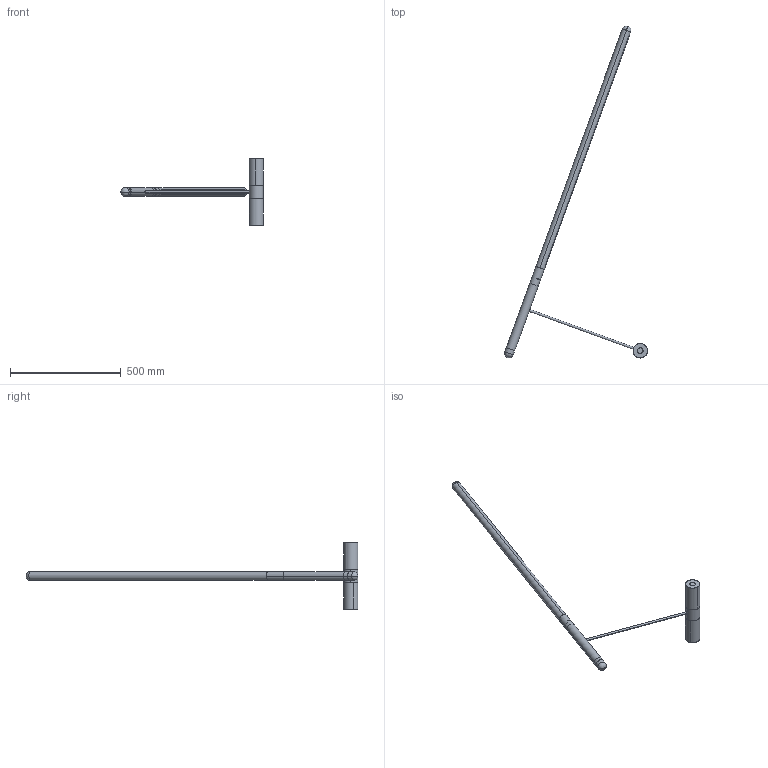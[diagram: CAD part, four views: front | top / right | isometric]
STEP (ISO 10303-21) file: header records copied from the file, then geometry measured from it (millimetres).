
FILE_DESCRIPTION (( 'STEP AP214' ), '1' );
FILE_NAME ('LINEA D.STEP', '2022-09-01T07:07:22', ( '' ), ( '' ), 'SwSTEP 2.0', 'SolidWorks 2016', '' );
FILE_SCHEMA (( 'AUTOMOTIVE_DESIGN' ));
Length unit declared in the file: millimetre
Products named in the file (12): BOTÓN_LATÓN; DIFUSOR_LUZ_CARRIL_PIE; TUBO METÁLICO; CUERPO_LAMPARA_PISA_; LINEA D; VARILLA_PIE_MADERA_; TERMINAL_MADERA_INFERIOR_; SOPORTE_FINAL_LAMPARA_PISA_; CILINDRO_NOGAL_PIE_; Pieza3^ENSAMBLAJE LAMPARA PISA; TUBO INFERIOR LATÓN; CHAPA LAMPARA PISA
Assembly tree (13 placements, depth 2):
  LINEA D
    SOPORTE_FINAL_LAMPARA_PISA_
    CUERPO_LAMPARA_PISA_
    TERMINAL_MADERA_INFERIOR_
    TUBO INFERIOR LATÓN
    CILINDRO_NOGAL_PIE_  x2
    VARILLA_PIE_MADERA_  x2
    TUBO METÁLICO
    BOTÓN_LATÓN
    DIFUSOR_LUZ_CARRIL_PIE
    CHAPA LAMPARA PISA  x2
  Pieza3^ENSAMBLAJE LAMPARA PISA
Bounding box: 644.29 x 1496.87 x 302 mm (x, y, z)
Volume: 2279152.8 mm3; surface area: 519024.2 mm2
Topology: 14 solids, 14 shells, 127 faces, 298 edges, 196 vertices
Faces by surface type: cylinder 65, plane 58, sphere 4
Entity records: 4178 total; most frequent: CARTESIAN_POINT 1034, DIRECTION 564, ORIENTED_EDGE 508, EDGE_CURVE 254, AXIS2_PLACEMENT_3D 224, VERTEX_POINT 168, EDGE_LOOP 122, LINE 116
